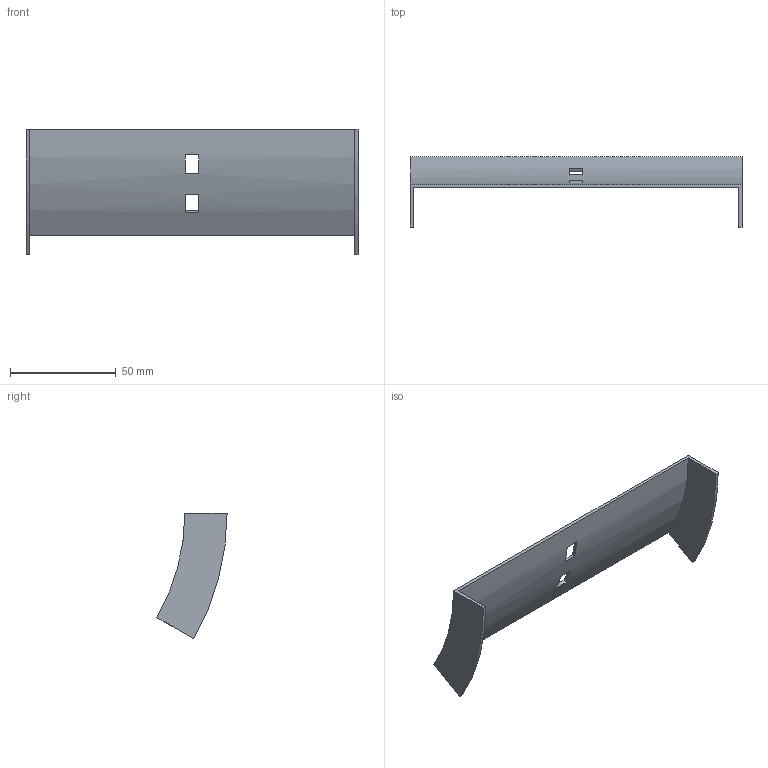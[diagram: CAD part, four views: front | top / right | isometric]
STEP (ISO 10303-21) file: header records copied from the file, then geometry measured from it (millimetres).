
FILE_DESCRIPTION (( 'STEP AP214' ), '1' );
FILE_NAME ('32N1R150.step', '2025-02-21T09:22:23', ( '' ), ( '' ), 'SwSTEP 2.0', 'SolidWorks 2023', '' );
FILE_SCHEMA (( 'AUTOMOTIVE_DESIGN' ));
Length unit declared in the file: millimetre
Products named in the file (1): 32N1R150
Bounding box: 157 x 33.2 x 59.25 mm (x, y, z)
Volume: 15235 mm3; surface area: 21174.7 mm2
Topology: 1 solids, 1 shells, 18 faces, 48 edges, 32 vertices
Faces by surface type: plane 14, cylinder 4
Entity records: 599 total; most frequent: DIRECTION 102, CARTESIAN_POINT 99, ORIENTED_EDGE 96, EDGE_CURVE 48, AXIS2_PLACEMENT_3D 35, LINE 32, VERTEX_POINT 32, VECTOR 32
